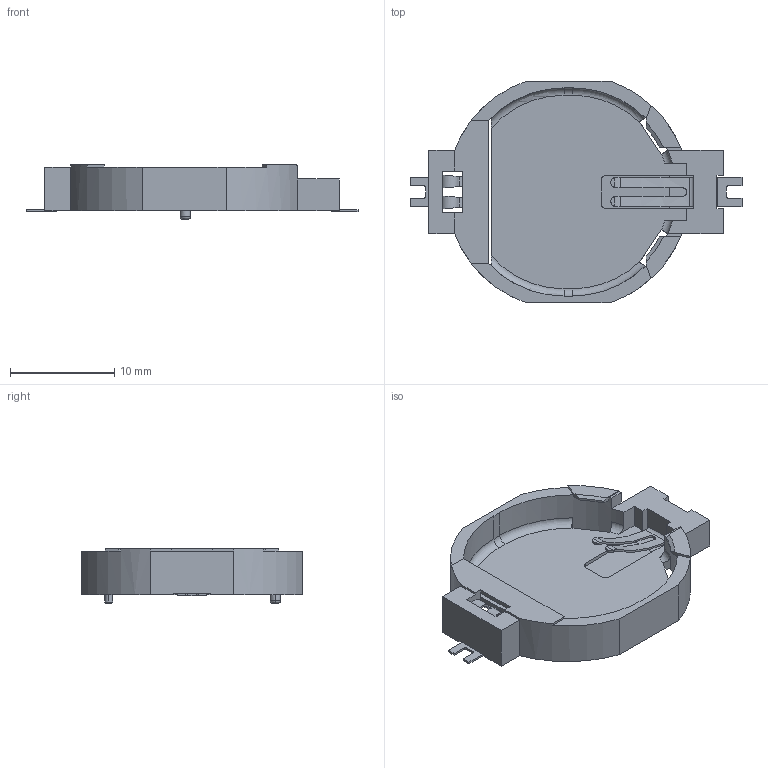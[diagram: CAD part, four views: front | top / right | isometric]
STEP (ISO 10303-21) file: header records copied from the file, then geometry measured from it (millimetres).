
FILE_DESCRIPTION((''),'2;1');
FILE_NAME('S-53011-002XX-XXX','2016-04-30T',('d29855'),(''),'CREO PARAMETRIC BY PTC INC, 2014500','CREO PARAMETRIC BY PTC INC, 2014500','');
FILE_SCHEMA(('CONFIG_CONTROL_DESIGN'));
Length unit declared in the file: millimetre
Products named in the file (1): S-53011-002XX-XXX
Bounding box: 31.9 x 21.3 x 5.2 mm (x, y, z)
Volume: 673.1 mm3; surface area: 1588.5 mm2
Topology: 1 solids, 1 shells, 225 faces, 617 edges, 394 vertices
Faces by surface type: plane 124, cylinder 58, bspline 25, torus 10, cone 8
Entity records: 8241 total; most frequent: CARTESIAN_POINT 2575, ORIENTED_EDGE 1234, DIRECTION 1097, EDGE_CURVE 617, VERTEX_POINT 394, VECTOR 393, LINE 393, AXIS2_PLACEMENT_3D 352
